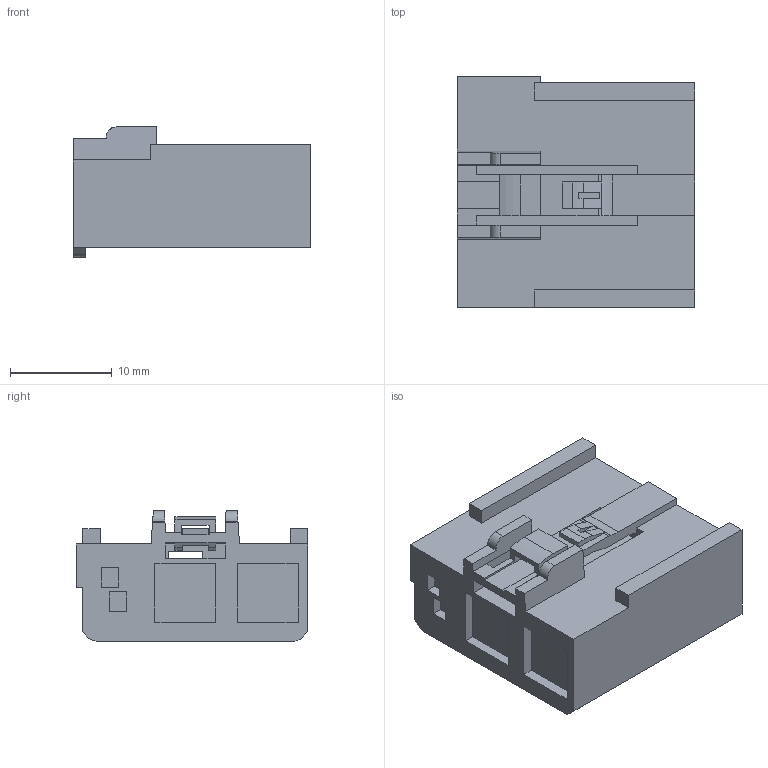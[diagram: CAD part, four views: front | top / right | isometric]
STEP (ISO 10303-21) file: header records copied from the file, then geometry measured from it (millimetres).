
FILE_DESCRIPTION(('CATIA V5 STEP','CAx-IF Rec.Pracs.--- Model Styling and Organization---1.5--- 2016-08-15','CAx-IF Rec.Pracs.---Supplemental Geometry---1.0---2011-11-01','CAx-IF Rec.Pracs.--- Composite Materials ---1.1---2010-07-15'),'2;1');
FILE_NAME('\\fss02.ad.sws.co.jp\fs100070\事務・購入\特命業務\特-35ｰ部品総合カタログメンテナンス\26年度\WEBカタログ用3D\260612_webカタログ新規登録用簡易3D\モデル保存場所\HFD-U2シリーズ\6099-0498.stp','2026-06-25T09:12:11+00:00',('none'),('none'),'CATIA Version 5-6 Release 2021 SP5 HF44','CATIA V5 STEP AP214 v2','none');
FILE_SCHEMA(('AUTOMOTIVE_DESIGN { 1 0 10303 214 1 1 1 1 }'));
Length unit declared in the file: millimetre
Products named in the file (1): 6099-0498
Bounding box: 23.4 x 22.8 x 12.8 mm (x, y, z)
Volume: 4515.7 mm3; surface area: 2536.1 mm2
Topology: 1 solids, 1 shells, 140 faces, 399 edges, 265 vertices
Faces by surface type: plane 129, cylinder 11
Entity records: 4556 total; most frequent: CARTESIAN_POINT 857, ORIENTED_EDGE 798, DIRECTION 606, EDGE_CURVE 399, VECTOR 375, LINE 375, VERTEX_POINT 265, EDGE_LOOP 152
